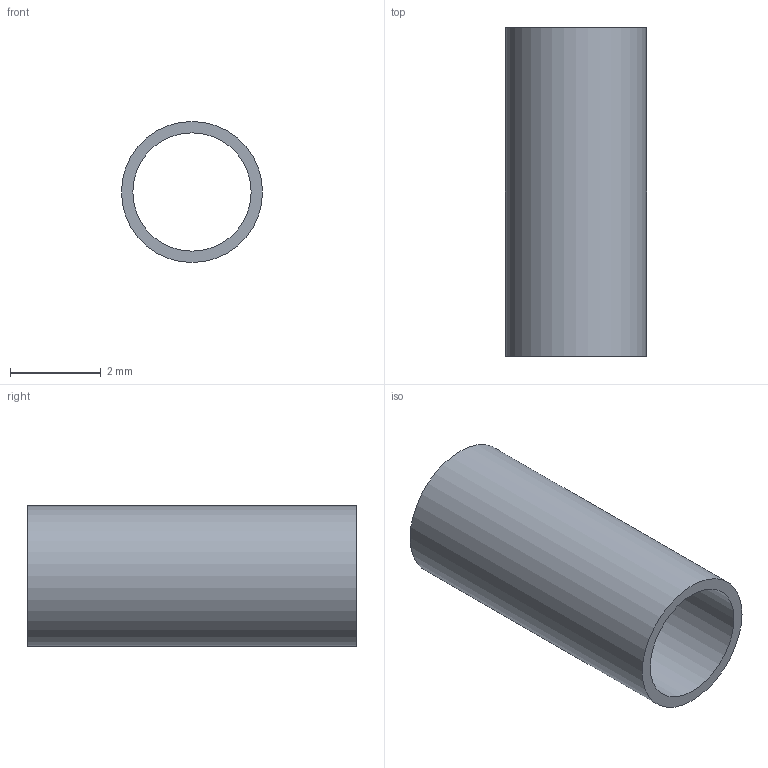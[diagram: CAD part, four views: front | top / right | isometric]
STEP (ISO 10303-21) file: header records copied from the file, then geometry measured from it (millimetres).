
FILE_DESCRIPTION(('Open CASCADE Model'),'2;1');
FILE_NAME('PLAY_CAP_TRAVEL_STOP_TUBE_-11','2026-09-06T11:49:22',( 'Author'),('Open CASCADE'),'Open CASCADE STEP processor 7.8', 'build123d','Unknown');
FILE_SCHEMA(('AUTOMOTIVE_DESIGN { 1 0 10303 214 1 1 1 1 }'));
Length unit declared in the file: millimetre
Products named in the file (1): PLAY_CAP_TRAVEL_STOP_TUBE_-11
Bounding box: 3.1 x 7.22 x 3.1 mm (x, y, z)
Volume: 16.2 mm3; surface area: 133.8 mm2
Topology: 1 solids, 1 shells, 4 faces, 6 edges, 4 vertices
Faces by surface type: cylinder 2, plane 2
Full cylindrical faces by diameter (mm): 2.6 x1, 3.1 x1
Entity records: 186 total; most frequent: DIRECTION 32, CARTESIAN_POINT 27, ORIENTED_EDGE 12, PCURVE 12, DEFINITIONAL_REPRESENTATION 12, LINE 10, VECTOR 10, AXIS2_PLACEMENT_3D 9
